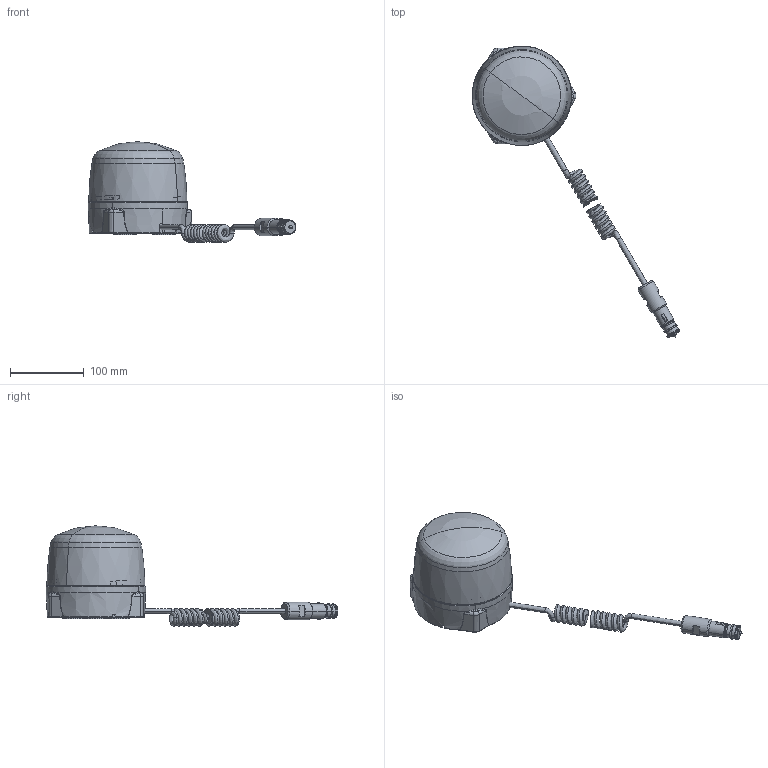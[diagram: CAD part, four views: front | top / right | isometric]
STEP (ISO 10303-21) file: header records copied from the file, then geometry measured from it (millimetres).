
FILE_DESCRIPTION(('CATIA V5 STEP Exchange','CAx-IF Rec.Pracs.--- Model Styling and Organization---1.5--- 2016-08-15','CAx-IF Rec.Pracs.---Supplemental Geometry---1.0---2011-11-01','CAx-IF Rec.Pracs.--- Composite Materials ---1.1---2010-07-15'),'2;1');
FILE_NAME('E:\tmp\ddx\2011221\HELLA_3D_data_Rota_LED_pipe_socket_2RL-010-979-01.stp','2022-01-18T07:49:27+00:00',('none'),('none'),'CATIA Version 5-6 Release 2020 SP3 HF9','CATIA V5 STEP AP214 Edition 3 v2','none');
FILE_SCHEMA(('AUTOMOTIVE_DESIGN { 1 0 10303 214 3 1 1 1 }'));
Products named in the file (1): 10001452073_D10_001
Bounding box: 282.05 x 395.92 x 136.28 mm (x, y, z)
Volume: 1568209.7 mm3; surface area: 157389.9 mm2
Topology: 3 solids, 8 shells, 1494 faces, 3576 edges, 2142 vertices
Faces by surface type: bspline 453, cylinder 308, torus 260, plane 245, cone 145, sphere 62, revolution 14, extrusion 7
Entity records: 64102 total; most frequent: CARTESIAN_POINT 35289, ORIENTED_EDGE 7118, DIRECTION 3686, EDGE_CURVE 3559, VERTEX_POINT 2142, AXIS2_PLACEMENT_3D 1958, B_SPLINE_CURVE_WITH_KNOTS 1753, EDGE_LOOP 1595
